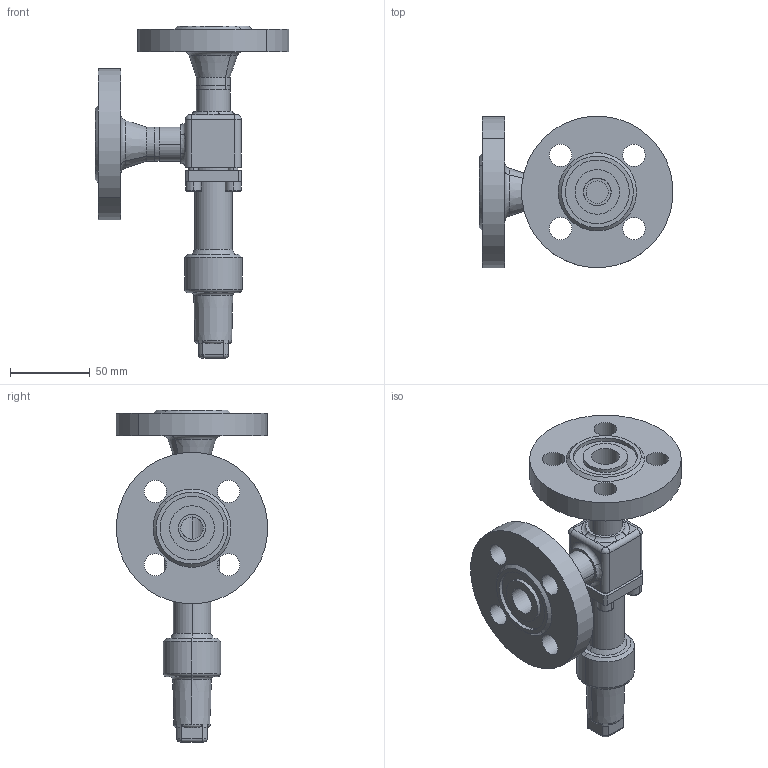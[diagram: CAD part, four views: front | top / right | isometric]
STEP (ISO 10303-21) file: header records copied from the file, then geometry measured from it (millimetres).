
FILE_DESCRIPTION (( 'STEP AP214' ), '1' );
FILE_NAME ('RVAK97420-DN015_DIN-FL-N_PS40.STEP', '2006-05-02T09:20:58', ( 'Herr Grams' ), ( 'AWP GmbH' ), 'SwSTEP 2.0', 'SolidWorks 2002296', '' );
FILE_SCHEMA (( 'AUTOMOTIVE_DESIGN' ));
Length unit declared in the file: millimetre
Products named in the file (10): RVAK97420-DN015_DIN-FL-N_PS40; Geh-kpl96420E10-DN15_PS40_DIN-FL_Standard; Gehäuse96400E10-DN15_PS40_R1_Standard; bead964-DN015-2_Standard; bead964-DN015-1_Standard; Flansch-DIN2635-Nut_PS40_DIN-Flansch-DN015_PS40-Nut; RVA99300E10_Deck+Schr-DN6-15_Standard; Deckel99300E10-DN6-15_PS40_Standard; Zylinderschraube-DIN912_M 6x 18; Kappe96300E10_DN6-20_Standard
Assembly tree (13 placements, depth 3):
  RVAK97420-DN015_DIN-FL-N_PS40
    Kappe96300E10_DN6-20_Standard
    Geh-kpl96420E10-DN15_PS40_DIN-FL_Standard
      Flansch-DIN2635-Nut_PS40_DIN-Flansch-DN015_PS40-Nut  x2
      bead964-DN015-2_Standard
      bead964-DN015-1_Standard
      Gehäuse96400E10-DN15_PS40_R1_Standard
    RVA99300E10_Deck+Schr-DN6-15_Standard
      Zylinderschraube-DIN912_M 6x 18  x4
      Deckel99300E10-DN6-15_PS40_Standard
Bounding box: 121.32 x 94.64 x 208 mm (x, y, z)
Volume: 291930.5 mm3; surface area: 81062.7 mm2
Topology: 11 solids, 11 shells, 311 faces, 695 edges, 430 vertices
Faces by surface type: cylinder 120, plane 94, cone 44, torus 38, bspline 15
Entity records: 13568 total; most frequent: CARTESIAN_POINT 7647, DIRECTION 1153, ORIENTED_EDGE 1018, EDGE_CURVE 509, AXIS2_PLACEMENT_3D 486, VERTEX_POINT 312, EDGE_LOOP 265, CIRCLE 258
